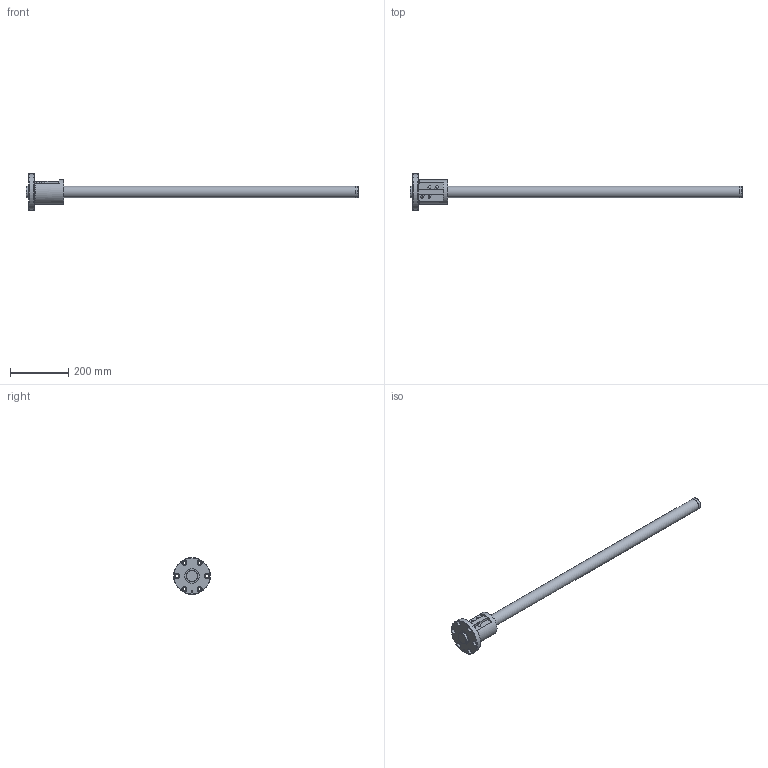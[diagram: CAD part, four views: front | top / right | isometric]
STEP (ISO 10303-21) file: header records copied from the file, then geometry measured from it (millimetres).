
FILE_DESCRIPTION( ( 'STEP AP203' ), ' ' );
FILE_NAME( 'p:/temp/worker_19/4028_1992/app_43_12018011815515997545988818fa3fd_000000_00_00_000000/format_0/BIF4012-5RRG0+1139LC0_10000.stp', '2018-01-18T14:52:01', ( '' ), ( '' ), ' ', 'PARTsolutions', ' ' );
FILE_SCHEMA( ( 'CONFIG_CONTROL_DESIGN' ) );
Length unit declared in the file: millimetre
Products named in the file (3): BIF4012-5RRG0+1139LC0_10000; _BIF 4012-5RR1000500 Shaft; _BIF 4012-5RR Nut
Assembly tree (2 placements, depth 2):
  BIF4012-5RRG0+1139LC0_10000
    _BIF 4012-5RR1000500 Shaft
    _BIF 4012-5RR Nut
Bounding box: 1139 x 126 x 126 mm (x, y, z)
Volume: 2001387 mm3; surface area: 224874 mm2
Topology: 2 solids, 2 shells, 82 faces, 178 edges, 113 vertices
Faces by surface type: cylinder 39, plane 31, cone 8, torus 4
Full cylindrical faces by diameter (mm): 4.917 x1, 6.2 x2, 8 x4, 11 x6, 17.5 x6, 39.5 x2, 40 x4, 49.2 x2, 84 x1, 126 x1
Entity records: 2558 total; most frequent: CARTESIAN_POINT 767, DIRECTION 376, ORIENTED_EDGE 262, AXIS2_PLACEMENT_3D 172, EDGE_LOOP 156, EDGE_CURVE 131, FACE_OUTER_BOUND 111, VERTEX_POINT 103
